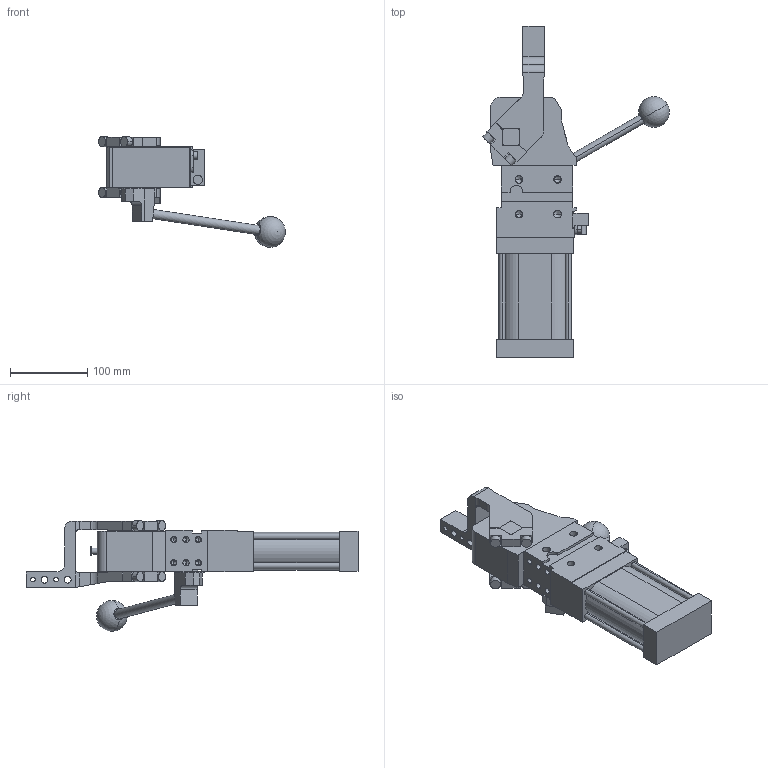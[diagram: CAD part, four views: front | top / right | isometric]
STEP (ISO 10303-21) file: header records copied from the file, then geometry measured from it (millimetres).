
FILE_DESCRIPTION (( 'STEP AP214' ), '1' );
FILE_NAME ('cplm63lbh1dsi1g_75.STEP', '2023-01-26T14:34:32', ( '' ), ( '' ), 'SwSTEP 2.0', 'SolidWorks 2022', '' );
FILE_SCHEMA (( 'AUTOMOTIVE_DESIGN' ));
Length unit declared in the file: millimetre
Products named in the file (5): comando_manuale_cplm_63; meccanica_cplm_63; cplm63lbh1dsi1g_75; blocchetto_VEP_0; leva_dx_offset_15_cpl63
Assembly tree (4 placements, depth 2):
  cplm63lbh1dsi1g_75
    meccanica_cplm_63
    blocchetto_VEP_0
    leva_dx_offset_15_cpl63
    comando_manuale_cplm_63
Bounding box: 242.06 x 430.5 x 143.5 mm (x, y, z)
Volume: 1866232.6 mm3; surface area: 206774.2 mm2
Topology: 4 solids, 4 shells, 430 faces, 1128 edges, 699 vertices
Faces by surface type: plane 217, cylinder 161, cone 50, sphere 2
Entity records: 14523 total; most frequent: CARTESIAN_POINT 2312, DIRECTION 2297, ORIENTED_EDGE 2154, EDGE_CURVE 1077, AXIS2_PLACEMENT_3D 795, LINE 707, VECTOR 707, VERTEX_POINT 696
